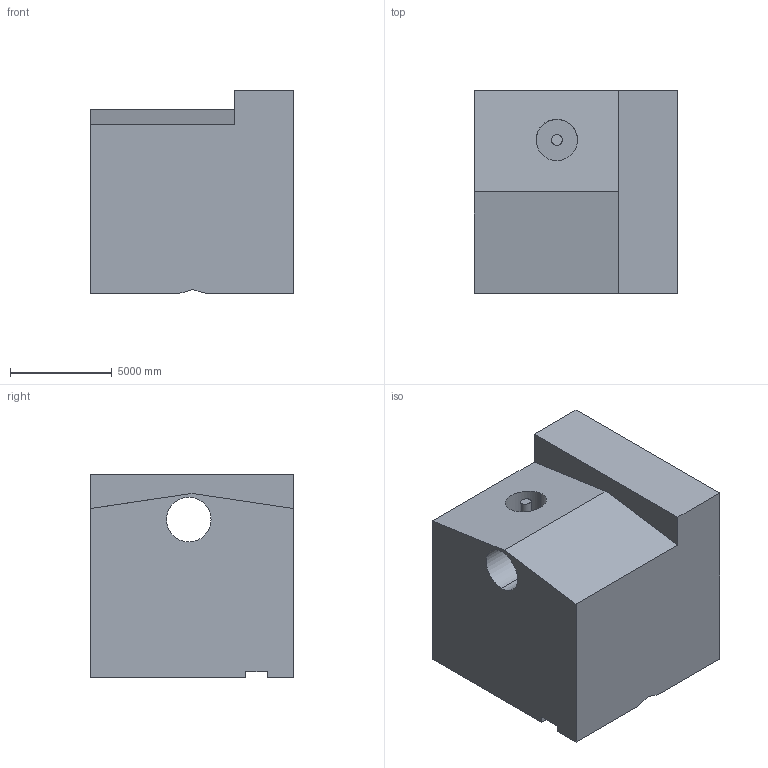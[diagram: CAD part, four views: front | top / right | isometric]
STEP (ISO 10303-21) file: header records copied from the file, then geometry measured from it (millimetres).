
FILE_DESCRIPTION (( 'STEP AP203' ), '1' );
FILE_NAME ('79.STEP', '2022-09-02T15:23:48', ( 'user' ), ( '' ), 'SwSTEP 2.0', 'SolidWorks 2021', '' );
FILE_SCHEMA (( 'CONFIG_CONTROL_DESIGN' ));
Length unit declared in the file: centimetre
Products named in the file (1): 79
Bounding box: 10000 x 10000 x 10000 mm (x, y, z)
Volume: 837768386171 mm3; surface area: 698238647.8 mm2
Topology: 1 solids, 1 shells, 38 faces, 99 edges, 66 vertices
Faces by surface type: plane 30, cylinder 8
Entity records: 1236 total; most frequent: CARTESIAN_POINT 222, ORIENTED_EDGE 198, DIRECTION 183, EDGE_CURVE 99, LINE 81, VECTOR 81, VERTEX_POINT 66, AXIS2_PLACEMENT_3D 51
